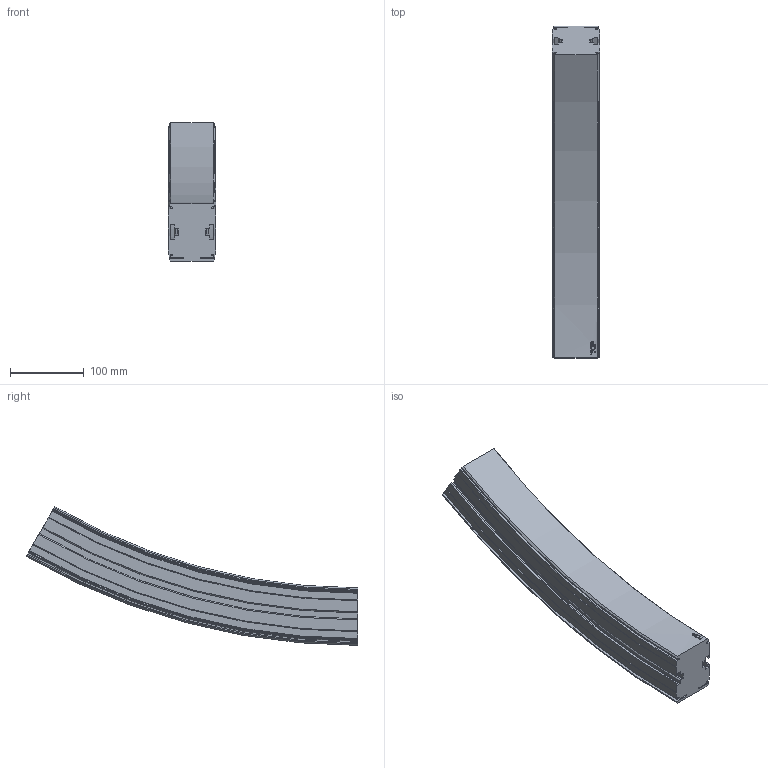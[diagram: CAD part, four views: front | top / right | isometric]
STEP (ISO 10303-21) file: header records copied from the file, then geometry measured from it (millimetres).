
FILE_DESCRIPTION(/* description */ ('VERTIKALKURVA S620 R860'),/* implementation_level */ '2;1');
FILE_NAME(/* name */ '\\carryline.intra\privat\users\mathias\Desktop\Tillfälliga filer\620-5695+620-2000-UPP-01.stp',/* time_stamp */ '2018-12-06T07:31:27+01:00',/* author */ ('MD'),/* organization */ ('CARRYLINE'),/* preprocessor_version */ 'ST-DEVELOPER v17',/* originating_system */ 'Autodesk Inventor 2018',/* authorisation */ '');
FILE_SCHEMA (('AUTOMOTIVE_DESIGN { 1 0 10303 214 3 1 1 }'));
Length unit declared in the file: millimetre
Products named in the file (1): 620-5695+620-2000-UPP-01
Bounding box: 64 x 450 x 188.13 mm (x, y, z)
Volume: 2011353 mm3; surface area: 226782.1 mm2
Topology: 1 solids, 1 shells, 149 faces, 426 edges, 284 vertices
Faces by surface type: plane 54, cylinder 37, torus 28, cone 16, bspline 14
Entity records: 9548 total; most frequent: CARTESIAN_POINT 5528, ORIENTED_EDGE 852, DIRECTION 836, EDGE_CURVE 426, AXIS2_PLACEMENT_3D 315, VERTEX_POINT 284, LINE 206, VECTOR 206
